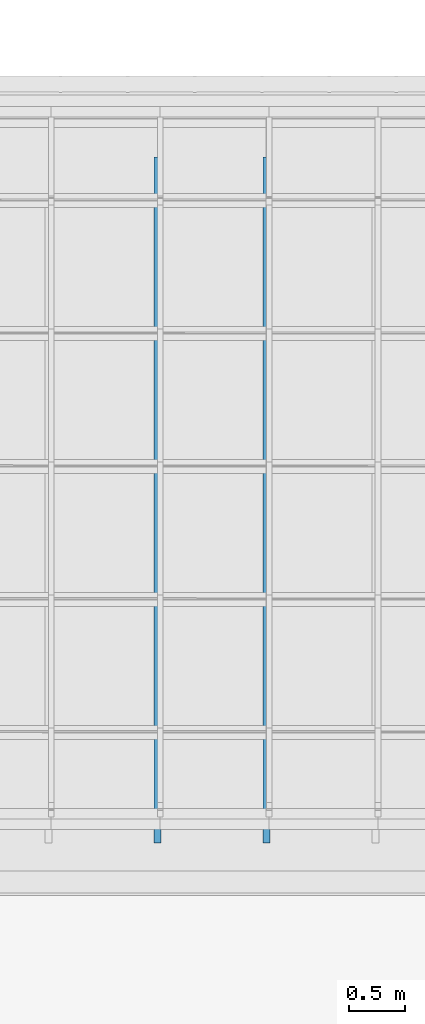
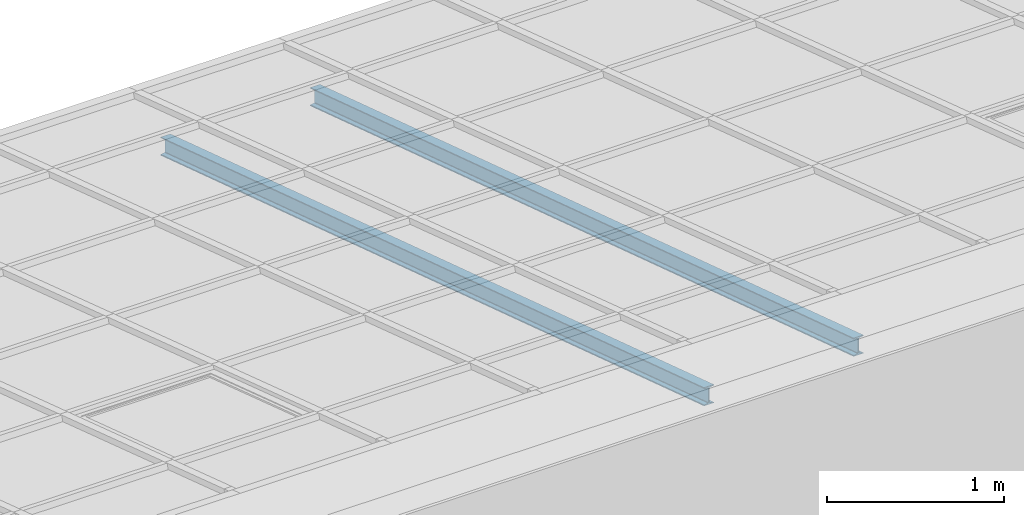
# One storey, part 9 of 47: 2 beams.
"""IFC2X3 building model written with IfcOpenShell, lengths in millimetres."""

from ifc_helpers import new_model, entity, si_unit, converted_unit, derived_unit, money_unit, point, direction, frame, frame_2d, origin_with_axes, place, context, subcontext, project, spatial, polyline, circle_curve, parameter, trimmed, segment, composite_curve, outline, extrude, clip, halfspace, material, type_object, element, save


model = new_model("IFC2X3")

# Units and contexts
model_context = context("Model", 3, precision=1e-05, world=origin_with_axes(), true_north=direction((0.0, 1.0)))
body_context = subcontext(model_context, "Body", "Model", "MODEL_VIEW")
ifc_project = project(units=[si_unit("LENGTHUNIT", "METRE", prefix="MILLI"), si_unit("AREAUNIT", "SQUARE_METRE"), si_unit("VOLUMEUNIT", "CUBIC_METRE"), converted_unit("PLANEANGLEUNIT", "DEGREE", entity("IfcPlaneAngleMeasure", 0.0174532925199), si_unit("PLANEANGLEUNIT", "RADIAN"), dimensions=[0, 0, 0, 0, 0, 0, 0]), si_unit("SOLIDANGLEUNIT", "STERADIAN"), money_unit("EUR"), converted_unit("TIMEUNIT", "Year", entity("IfcTimeMeasure", 31556926.0), si_unit("TIMEUNIT", "SECOND"), dimensions=[0, 0, 1, 0, 0, 0, 0]), si_unit("MASSUNIT", "GRAM", prefix="KILO"), si_unit("THERMODYNAMICTEMPERATUREUNIT", "DEGREE_CELSIUS"), si_unit("LUMINOUSINTENSITYUNIT", "LUMEN"), si_unit("ENERGYUNIT", "JOULE", prefix="MEGA"), derived_unit("THERMALCONDUCTANCEUNIT", [(si_unit("POWERUNIT", "WATT"), 1), (si_unit("LENGTHUNIT", "METRE"), -1), (si_unit("THERMODYNAMICTEMPERATUREUNIT", "KELVIN"), -1)]), derived_unit("SPECIFICHEATCAPACITYUNIT", [(si_unit("ENERGYUNIT", "JOULE"), 1), (si_unit("MASSUNIT", "GRAM", prefix="KILO"), -1), (si_unit("THERMODYNAMICTEMPERATUREUNIT", "KELVIN"), -1)]), derived_unit("MASSDENSITYUNIT", [(si_unit("MASSUNIT", "GRAM", prefix="KILO"), 1), (si_unit("VOLUMEUNIT", "CUBIC_METRE"), -1)])], contexts=[model_context])

# Site, building, storey
site_placement = place(None, origin_with_axes())
site = spatial("IfcSite", under=ifc_project, at=site_placement, Name="Site", CompositionType="ELEMENT")
building_placement = place(site_placement, origin_with_axes())
building = spatial("IfcBuilding", under=site, at=building_placement, Name="Building", CompositionType="ELEMENT")
storey_placement = place(building_placement, frame((0.0, 0.0, 6000.0), z_axis=(0.0, 0.0, 1.0), x_axis=(1.0, 0.0, 0.0)))
storey = spatial("IfcBuildingStorey", under=building, at=storey_placement, Name="KATUSEPLAAN", CompositionType="ELEMENT", Elevation=6000.0)

# Beams
ifc_material = material(Name="Teras (1)")
beam_type = type_object("IfcBeamType", Name="IPE 120", PredefinedType="NOTDEFINED")
beam_1_placement = place(storey_placement, frame((80929.081763, 46947.8063411, 711.763952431), z_axis=(0.0, 0.0, 1.0), x_axis=(-1.0, 0.0, 0.0)))
element("IfcBeam", 1, at=beam_1_placement, inside=storey, type_object=beam_type, material=ifc_material, Name="I Joist - Steel", ObjectType="I Joist - Steel 64 x 120", context=body_context, shape_type="Clipping", body=[
    clip(clip(extrude(outline(composite_curve([segment(polyline([(32.0018479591, -120.000212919), (32.0018479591, -117.505222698)]), True, "CONTINUOUS"), segment(trimmed(circle_curve(frame_2d((27.3321376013, -117.498683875), x_axis=(0.999999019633, -0.00140026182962)), 4.66971493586), [point((32.0018479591, -117.505222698)), parameter(0.0)], [point((31.7461003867, -115.974488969)), parameter(19.1306436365)], True, "CARTESIAN"), True, "CONTINUOUS"), segment(trimmed(circle_curve(frame_2d((27.8471066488, -117.309508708), x_axis=(0.94607823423, 0.323938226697)), 4.12121703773), [point((31.7461003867, -115.974488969)), parameter(0.0)], [point((31.017792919, -114.676795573)), parameter(20.802576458)], True, "CARTESIAN"), True, "CONTINUOUS"), segment(trimmed(circle_curve(frame_2d((28.4090653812, -116.837495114), x_axis=(0.770140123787, 0.637874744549)), 3.38734141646), [point((31.017792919, -114.676795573)), parameter(0.0)], [point((29.9278037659, -113.809704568)), parameter(23.7281511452)], True, "CARTESIAN"), True, "CONTINUOUS"), segment(trimmed(circle_curve(frame_2d((28.6333599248, -116.404648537), x_axis=(0.446378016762, 0.89484449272)), 2.89988259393), [point((29.9278037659, -113.809704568)), parameter(0.0)], [point((29.1110817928, -113.544386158)), parameter(17.0295027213)], True, "CARTESIAN"), True, "CONTINUOUS"), segment(polyline([(29.1110817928, -113.544386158), (5.24260801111, -109.566039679)]), True, "CONTINUOUS"), segment(trimmed(circle_curve(frame_2d((5.72032987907, -106.7057773), x_axis=(-0.446378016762, -0.89484449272)), 2.89988259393), [point((5.24260801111, -109.566039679)), parameter(17.0295027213)], [point((4.42588603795, -109.300721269)), parameter(0.0)], False, "CARTESIAN"), True, "CONTINUOUS"), segment(trimmed(circle_curve(frame_2d((5.94462442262, -106.272930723), x_axis=(-0.770140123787, -0.637874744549)), 3.38734141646), [point((4.42588603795, -109.300721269)), parameter(23.7281511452)], [point((3.33589688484, -108.433630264)), parameter(0.0)], False, "CARTESIAN"), True, "CONTINUOUS"), segment(trimmed(circle_curve(frame_2d((6.5065831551, -105.800917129), x_axis=(-0.94607823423, -0.323938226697)), 4.12121703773), [point((3.33589688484, -108.433630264)), parameter(20.802576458)], [point((2.60758941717, -107.135936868)), parameter(0.0)], False, "CARTESIAN"), True, "CONTINUOUS"), segment(trimmed(circle_curve(frame_2d((7.02155220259, -105.611741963), x_axis=(-0.999999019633, 0.00140026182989)), 4.66971493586), [point((2.60758941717, -107.135936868)), parameter(19.1306436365)], [point((2.35184184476, -105.605203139)), parameter(0.0)], False, "CARTESIAN"), True, "CONTINUOUS"), segment(polyline([(2.35184184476, -105.605203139), (2.35184184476, -14.3950097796)]), True, "CONTINUOUS"), segment(trimmed(circle_curve(frame_2d((7.02155220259, -14.3884709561), x_axis=(-0.945231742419, 0.326399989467)), 4.66971493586), [point((2.35184184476, -14.3950097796)), parameter(19.1306436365)], [point((2.60758941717, -12.8642760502)), parameter(0.0)], False, "CARTESIAN"), True, "CONTINUOUS"), segment(trimmed(circle_curve(frame_2d((6.5065831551, -14.1992957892), x_axis=(-0.769356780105, 0.638819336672)), 4.12121703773), [point((2.60758941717, -12.8642760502)), parameter(20.802576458)], [point((3.33589688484, -11.5665826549)), parameter(0.0)], False, "CARTESIAN"), True, "CONTINUOUS"), segment(trimmed(circle_curve(frame_2d((5.94462442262, -13.7272821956), x_axis=(-0.44835704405, 0.893854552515)), 3.38734141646), [point((3.33589688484, -11.5665826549)), parameter(23.7281511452)], [point((4.42588603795, -10.6994916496)), parameter(0.0)], False, "CARTESIAN"), True, "CONTINUOUS"), segment(trimmed(circle_curve(frame_2d((5.72032987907, -13.2944356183), x_axis=(-0.164738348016, 0.986337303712)), 2.89988259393), [point((4.42588603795, -10.6994916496)), parameter(17.0295027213)], [point((5.24260801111, -10.4341732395)), parameter(0.0)], False, "CARTESIAN"), True, "CONTINUOUS"), segment(polyline([(5.24260801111, -10.4341732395), (29.1110817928, -6.45582676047)]), True, "CONTINUOUS"), segment(trimmed(circle_curve(frame_2d((28.6333599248, -3.59556438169), x_axis=(0.164738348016, -0.986337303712)), 2.89988259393), [point((29.1110817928, -6.45582676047)), parameter(0.0)], [point((29.9278037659, -6.19050835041)), parameter(17.0295027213)], True, "CARTESIAN"), True, "CONTINUOUS"), segment(trimmed(circle_curve(frame_2d((28.4090653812, -3.16271780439), x_axis=(0.44835704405, -0.893854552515)), 3.38734141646), [point((29.9278037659, -6.19050835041)), parameter(0.0)], [point((31.017792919, -5.32341734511)), parameter(23.7281511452)], True, "CARTESIAN"), True, "CONTINUOUS"), segment(trimmed(circle_curve(frame_2d((27.8471066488, -2.69070421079), x_axis=(0.769356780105, -0.638819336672)), 4.12121703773), [point((31.017792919, -5.32341734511)), parameter(0.0)], [point((31.7461003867, -4.02572394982)), parameter(20.802576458)], True, "CARTESIAN"), True, "CONTINUOUS"), segment(trimmed(circle_curve(frame_2d((27.3321376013, -2.50152904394), x_axis=(0.945231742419, -0.326399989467)), 4.66971493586), [point((31.7461003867, -4.02572394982)), parameter(0.0)], [point((32.0018479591, -2.49499022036)), parameter(19.1306436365)], True, "CARTESIAN"), True, "CONTINUOUS"), segment(polyline([(32.0018479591, -2.49499022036), (32.0018479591, 0.0), (-32.0018479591, 0.0), (-32.0018479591, -2.49499022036)]), True, "CONTINUOUS"), segment(trimmed(circle_curve(frame_2d((-27.3321376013, -2.50152904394), x_axis=(-0.999999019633, 0.00140026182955)), 4.66971493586), [point((-32.0018479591, -2.49499022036)), parameter(0.0)], [point((-31.7461003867, -4.02572394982)), parameter(19.1306436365)], True, "CARTESIAN"), True, "CONTINUOUS"), segment(trimmed(circle_curve(frame_2d((-27.8471066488, -2.69070421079), x_axis=(-0.94607823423, -0.323938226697)), 4.12121703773), [point((-31.7461003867, -4.02572394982)), parameter(0.0)], [point((-31.017792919, -5.32341734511)), parameter(20.802576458)], True, "CARTESIAN"), True, "CONTINUOUS"), segment(trimmed(circle_curve(frame_2d((-28.4090653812, -3.16271780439), x_axis=(-0.770140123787, -0.637874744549)), 3.38734141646), [point((-31.017792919, -5.32341734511)), parameter(0.0)], [point((-29.9278037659, -6.19050835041)), parameter(23.7281511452)], True, "CARTESIAN"), True, "CONTINUOUS"), segment(trimmed(circle_curve(frame_2d((-28.6333599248, -3.59556438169), x_axis=(-0.446378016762, -0.89484449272)), 2.89988259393), [point((-29.9278037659, -6.19050835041)), parameter(0.0)], [point((-29.1110817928, -6.45582676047)), parameter(17.0295027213)], True, "CARTESIAN"), True, "CONTINUOUS"), segment(polyline([(-29.1110817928, -6.45582676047), (-5.24260801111, -10.4341732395)]), True, "CONTINUOUS"), segment(trimmed(circle_curve(frame_2d((-5.72032987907, -13.2944356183), x_axis=(0.446378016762, 0.89484449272)), 2.89988259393), [point((-5.24260801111, -10.4341732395)), parameter(17.0295027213)], [point((-4.42588603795, -10.6994916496)), parameter(0.0)], False, "CARTESIAN"), True, "CONTINUOUS"), segment(trimmed(circle_curve(frame_2d((-5.94462442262, -13.7272821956), x_axis=(0.770140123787, 0.637874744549)), 3.38734141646), [point((-4.42588603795, -10.6994916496)), parameter(23.7281511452)], [point((-3.33589688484, -11.5665826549)), parameter(0.0)], False, "CARTESIAN"), True, "CONTINUOUS"), segment(trimmed(circle_curve(frame_2d((-6.5065831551, -14.1992957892), x_axis=(0.94607823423, 0.323938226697)), 4.12121703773), [point((-3.33589688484, -11.5665826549)), parameter(20.802576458)], [point((-2.60758941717, -12.8642760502)), parameter(0.0)], False, "CARTESIAN"), True, "CONTINUOUS"), segment(trimmed(circle_curve(frame_2d((-7.02155220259, -14.3884709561), x_axis=(0.999999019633, -0.00140026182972)), 4.66971493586), [point((-2.60758941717, -12.8642760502)), parameter(19.1306436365)], [point((-2.35184184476, -14.3950097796)), parameter(0.0)], False, "CARTESIAN"), True, "CONTINUOUS"), segment(polyline([(-2.35184184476, -14.3950097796), (-2.35184184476, -105.605203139)]), True, "CONTINUOUS"), segment(trimmed(circle_curve(frame_2d((-7.02155220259, -105.611741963), x_axis=(0.945231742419, -0.326399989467)), 4.66971493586), [point((-2.35184184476, -105.605203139)), parameter(19.1306436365)], [point((-2.60758941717, -107.135936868)), parameter(0.0)], False, "CARTESIAN"), True, "CONTINUOUS"), segment(trimmed(circle_curve(frame_2d((-6.5065831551, -105.800917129), x_axis=(0.769356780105, -0.638819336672)), 4.12121703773), [point((-2.60758941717, -107.135936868)), parameter(20.802576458)], [point((-3.33589688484, -108.433630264)), parameter(0.0)], False, "CARTESIAN"), True, "CONTINUOUS"), segment(trimmed(circle_curve(frame_2d((-5.94462442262, -106.272930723), x_axis=(0.44835704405, -0.893854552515)), 3.38734141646), [point((-3.33589688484, -108.433630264)), parameter(23.7281511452)], [point((-4.42588603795, -109.300721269)), parameter(0.0)], False, "CARTESIAN"), True, "CONTINUOUS"), segment(trimmed(circle_curve(frame_2d((-5.72032987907, -106.7057773), x_axis=(0.164738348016, -0.986337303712)), 2.89988259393), [point((-4.42588603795, -109.300721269)), parameter(17.0295027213)], [point((-5.24260801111, -109.566039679)), parameter(0.0)], False, "CARTESIAN"), True, "CONTINUOUS"), segment(polyline([(-5.24260801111, -109.566039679), (-29.1110817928, -113.544386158)]), True, "CONTINUOUS"), segment(trimmed(circle_curve(frame_2d((-28.6333599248, -116.404648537), x_axis=(-0.164738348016, 0.986337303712)), 2.89988259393), [point((-29.1110817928, -113.544386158)), parameter(0.0)], [point((-29.9278037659, -113.809704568)), parameter(17.0295027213)], True, "CARTESIAN"), True, "CONTINUOUS"), segment(trimmed(circle_curve(frame_2d((-28.4090653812, -116.837495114), x_axis=(-0.44835704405, 0.893854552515)), 3.38734141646), [point((-29.9278037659, -113.809704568)), parameter(0.0)], [point((-31.017792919, -114.676795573)), parameter(23.7281511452)], True, "CARTESIAN"), True, "CONTINUOUS"), segment(trimmed(circle_curve(frame_2d((-27.8471066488, -117.309508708), x_axis=(-0.769356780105, 0.638819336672)), 4.12121703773), [point((-31.017792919, -114.676795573)), parameter(0.0)], [point((-31.7461003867, -115.974488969)), parameter(20.802576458)], True, "CARTESIAN"), True, "CONTINUOUS"), segment(trimmed(circle_curve(frame_2d((-27.3321376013, -117.498683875), x_axis=(-0.945231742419, 0.326399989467)), 4.66971493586), [point((-31.7461003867, -115.974488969)), parameter(0.0)], [point((-32.0018479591, -117.505222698)), parameter(19.1306436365)], True, "CARTESIAN"), True, "CONTINUOUS"), segment(polyline([(-32.0018479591, -117.505222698), (-32.0018479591, -120.000212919), (32.0018479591, -120.000212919)]), True, "CONTINUOUS")], self_intersect=False)), frame((0.0, 6177.44201598, 2007.17258333), z_axis=(0.0, 0.951056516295, 0.309016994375), x_axis=(-1.0, 0.0, 0.0)), (0.0, 0.0, -1.0), 6550.487721), halfspace(frame((0.0, 6125.0, 0.0), z_axis=(0.0, -1.0, 0.0), x_axis=(0.0, 0.0, -1.0)), True)), halfspace(frame((0.0, 0.0, 0.0), z_axis=(0.0, 1.0, 0.0), x_axis=(0.0, 0.0, 1.0)), True)),
])
beam_2_placement = place(storey_placement, frame((79956.081763, 46947.8063411, 711.763952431), z_axis=(0.0, 0.0, 1.0), x_axis=(-1.0, 0.0, 0.0)))
element("IfcBeam", 2, at=beam_2_placement, inside=storey, type_object=beam_type, material=ifc_material, Name="I Joist - Steel", ObjectType="I Joist - Steel 64 x 120", context=body_context, shape_type="Clipping", body=[
    clip(clip(extrude(outline(composite_curve([segment(polyline([(32.0018479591, -120.000212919), (32.0018479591, -117.505222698)]), True, "CONTINUOUS"), segment(trimmed(circle_curve(frame_2d((27.3321376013, -117.498683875), x_axis=(0.999999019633, -0.00140026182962)), 4.66971493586), [point((32.0018479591, -117.505222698)), parameter(0.0)], [point((31.7461003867, -115.974488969)), parameter(19.1306436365)], True, "CARTESIAN"), True, "CONTINUOUS"), segment(trimmed(circle_curve(frame_2d((27.8471066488, -117.309508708), x_axis=(0.94607823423, 0.323938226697)), 4.12121703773), [point((31.7461003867, -115.974488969)), parameter(0.0)], [point((31.017792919, -114.676795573)), parameter(20.802576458)], True, "CARTESIAN"), True, "CONTINUOUS"), segment(trimmed(circle_curve(frame_2d((28.4090653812, -116.837495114), x_axis=(0.770140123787, 0.637874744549)), 3.38734141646), [point((31.017792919, -114.676795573)), parameter(0.0)], [point((29.9278037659, -113.809704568)), parameter(23.7281511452)], True, "CARTESIAN"), True, "CONTINUOUS"), segment(trimmed(circle_curve(frame_2d((28.6333599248, -116.404648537), x_axis=(0.446378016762, 0.89484449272)), 2.89988259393), [point((29.9278037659, -113.809704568)), parameter(0.0)], [point((29.1110817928, -113.544386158)), parameter(17.0295027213)], True, "CARTESIAN"), True, "CONTINUOUS"), segment(polyline([(29.1110817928, -113.544386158), (5.24260801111, -109.566039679)]), True, "CONTINUOUS"), segment(trimmed(circle_curve(frame_2d((5.72032987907, -106.7057773), x_axis=(-0.446378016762, -0.89484449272)), 2.89988259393), [point((5.24260801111, -109.566039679)), parameter(17.0295027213)], [point((4.42588603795, -109.300721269)), parameter(0.0)], False, "CARTESIAN"), True, "CONTINUOUS"), segment(trimmed(circle_curve(frame_2d((5.94462442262, -106.272930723), x_axis=(-0.770140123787, -0.637874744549)), 3.38734141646), [point((4.42588603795, -109.300721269)), parameter(23.7281511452)], [point((3.33589688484, -108.433630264)), parameter(0.0)], False, "CARTESIAN"), True, "CONTINUOUS"), segment(trimmed(circle_curve(frame_2d((6.5065831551, -105.800917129), x_axis=(-0.94607823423, -0.323938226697)), 4.12121703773), [point((3.33589688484, -108.433630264)), parameter(20.802576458)], [point((2.60758941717, -107.135936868)), parameter(0.0)], False, "CARTESIAN"), True, "CONTINUOUS"), segment(trimmed(circle_curve(frame_2d((7.02155220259, -105.611741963), x_axis=(-0.999999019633, 0.00140026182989)), 4.66971493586), [point((2.60758941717, -107.135936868)), parameter(19.1306436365)], [point((2.35184184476, -105.605203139)), parameter(0.0)], False, "CARTESIAN"), True, "CONTINUOUS"), segment(polyline([(2.35184184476, -105.605203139), (2.35184184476, -14.3950097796)]), True, "CONTINUOUS"), segment(trimmed(circle_curve(frame_2d((7.02155220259, -14.3884709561), x_axis=(-0.945231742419, 0.326399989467)), 4.66971493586), [point((2.35184184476, -14.3950097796)), parameter(19.1306436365)], [point((2.60758941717, -12.8642760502)), parameter(0.0)], False, "CARTESIAN"), True, "CONTINUOUS"), segment(trimmed(circle_curve(frame_2d((6.5065831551, -14.1992957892), x_axis=(-0.769356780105, 0.638819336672)), 4.12121703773), [point((2.60758941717, -12.8642760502)), parameter(20.802576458)], [point((3.33589688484, -11.5665826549)), parameter(0.0)], False, "CARTESIAN"), True, "CONTINUOUS"), segment(trimmed(circle_curve(frame_2d((5.94462442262, -13.7272821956), x_axis=(-0.44835704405, 0.893854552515)), 3.38734141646), [point((3.33589688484, -11.5665826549)), parameter(23.7281511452)], [point((4.42588603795, -10.6994916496)), parameter(0.0)], False, "CARTESIAN"), True, "CONTINUOUS"), segment(trimmed(circle_curve(frame_2d((5.72032987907, -13.2944356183), x_axis=(-0.164738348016, 0.986337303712)), 2.89988259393), [point((4.42588603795, -10.6994916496)), parameter(17.0295027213)], [point((5.24260801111, -10.4341732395)), parameter(0.0)], False, "CARTESIAN"), True, "CONTINUOUS"), segment(polyline([(5.24260801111, -10.4341732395), (29.1110817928, -6.45582676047)]), True, "CONTINUOUS"), segment(trimmed(circle_curve(frame_2d((28.6333599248, -3.59556438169), x_axis=(0.164738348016, -0.986337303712)), 2.89988259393), [point((29.1110817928, -6.45582676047)), parameter(0.0)], [point((29.9278037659, -6.19050835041)), parameter(17.0295027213)], True, "CARTESIAN"), True, "CONTINUOUS"), segment(trimmed(circle_curve(frame_2d((28.4090653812, -3.16271780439), x_axis=(0.44835704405, -0.893854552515)), 3.38734141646), [point((29.9278037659, -6.19050835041)), parameter(0.0)], [point((31.017792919, -5.32341734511)), parameter(23.7281511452)], True, "CARTESIAN"), True, "CONTINUOUS"), segment(trimmed(circle_curve(frame_2d((27.8471066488, -2.69070421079), x_axis=(0.769356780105, -0.638819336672)), 4.12121703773), [point((31.017792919, -5.32341734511)), parameter(0.0)], [point((31.7461003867, -4.02572394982)), parameter(20.802576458)], True, "CARTESIAN"), True, "CONTINUOUS"), segment(trimmed(circle_curve(frame_2d((27.3321376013, -2.50152904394), x_axis=(0.945231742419, -0.326399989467)), 4.66971493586), [point((31.7461003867, -4.02572394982)), parameter(0.0)], [point((32.0018479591, -2.49499022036)), parameter(19.1306436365)], True, "CARTESIAN"), True, "CONTINUOUS"), segment(polyline([(32.0018479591, -2.49499022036), (32.0018479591, 0.0), (-32.0018479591, 0.0), (-32.0018479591, -2.49499022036)]), True, "CONTINUOUS"), segment(trimmed(circle_curve(frame_2d((-27.3321376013, -2.50152904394), x_axis=(-0.999999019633, 0.00140026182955)), 4.66971493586), [point((-32.0018479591, -2.49499022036)), parameter(0.0)], [point((-31.7461003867, -4.02572394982)), parameter(19.1306436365)], True, "CARTESIAN"), True, "CONTINUOUS"), segment(trimmed(circle_curve(frame_2d((-27.8471066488, -2.69070421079), x_axis=(-0.94607823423, -0.323938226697)), 4.12121703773), [point((-31.7461003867, -4.02572394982)), parameter(0.0)], [point((-31.017792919, -5.32341734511)), parameter(20.802576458)], True, "CARTESIAN"), True, "CONTINUOUS"), segment(trimmed(circle_curve(frame_2d((-28.4090653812, -3.16271780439), x_axis=(-0.770140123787, -0.637874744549)), 3.38734141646), [point((-31.017792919, -5.32341734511)), parameter(0.0)], [point((-29.9278037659, -6.19050835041)), parameter(23.7281511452)], True, "CARTESIAN"), True, "CONTINUOUS"), segment(trimmed(circle_curve(frame_2d((-28.6333599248, -3.59556438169), x_axis=(-0.446378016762, -0.89484449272)), 2.89988259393), [point((-29.9278037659, -6.19050835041)), parameter(0.0)], [point((-29.1110817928, -6.45582676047)), parameter(17.0295027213)], True, "CARTESIAN"), True, "CONTINUOUS"), segment(polyline([(-29.1110817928, -6.45582676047), (-5.24260801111, -10.4341732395)]), True, "CONTINUOUS"), segment(trimmed(circle_curve(frame_2d((-5.72032987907, -13.2944356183), x_axis=(0.446378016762, 0.89484449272)), 2.89988259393), [point((-5.24260801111, -10.4341732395)), parameter(17.0295027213)], [point((-4.42588603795, -10.6994916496)), parameter(0.0)], False, "CARTESIAN"), True, "CONTINUOUS"), segment(trimmed(circle_curve(frame_2d((-5.94462442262, -13.7272821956), x_axis=(0.770140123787, 0.637874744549)), 3.38734141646), [point((-4.42588603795, -10.6994916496)), parameter(23.7281511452)], [point((-3.33589688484, -11.5665826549)), parameter(0.0)], False, "CARTESIAN"), True, "CONTINUOUS"), segment(trimmed(circle_curve(frame_2d((-6.5065831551, -14.1992957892), x_axis=(0.94607823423, 0.323938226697)), 4.12121703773), [point((-3.33589688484, -11.5665826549)), parameter(20.802576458)], [point((-2.60758941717, -12.8642760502)), parameter(0.0)], False, "CARTESIAN"), True, "CONTINUOUS"), segment(trimmed(circle_curve(frame_2d((-7.02155220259, -14.3884709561), x_axis=(0.999999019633, -0.00140026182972)), 4.66971493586), [point((-2.60758941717, -12.8642760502)), parameter(19.1306436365)], [point((-2.35184184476, -14.3950097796)), parameter(0.0)], False, "CARTESIAN"), True, "CONTINUOUS"), segment(polyline([(-2.35184184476, -14.3950097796), (-2.35184184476, -105.605203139)]), True, "CONTINUOUS"), segment(trimmed(circle_curve(frame_2d((-7.02155220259, -105.611741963), x_axis=(0.945231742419, -0.326399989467)), 4.66971493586), [point((-2.35184184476, -105.605203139)), parameter(19.1306436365)], [point((-2.60758941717, -107.135936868)), parameter(0.0)], False, "CARTESIAN"), True, "CONTINUOUS"), segment(trimmed(circle_curve(frame_2d((-6.5065831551, -105.800917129), x_axis=(0.769356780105, -0.638819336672)), 4.12121703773), [point((-2.60758941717, -107.135936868)), parameter(20.802576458)], [point((-3.33589688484, -108.433630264)), parameter(0.0)], False, "CARTESIAN"), True, "CONTINUOUS"), segment(trimmed(circle_curve(frame_2d((-5.94462442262, -106.272930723), x_axis=(0.44835704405, -0.893854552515)), 3.38734141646), [point((-3.33589688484, -108.433630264)), parameter(23.7281511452)], [point((-4.42588603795, -109.300721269)), parameter(0.0)], False, "CARTESIAN"), True, "CONTINUOUS"), segment(trimmed(circle_curve(frame_2d((-5.72032987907, -106.7057773), x_axis=(0.164738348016, -0.986337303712)), 2.89988259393), [point((-4.42588603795, -109.300721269)), parameter(17.0295027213)], [point((-5.24260801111, -109.566039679)), parameter(0.0)], False, "CARTESIAN"), True, "CONTINUOUS"), segment(polyline([(-5.24260801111, -109.566039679), (-29.1110817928, -113.544386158)]), True, "CONTINUOUS"), segment(trimmed(circle_curve(frame_2d((-28.6333599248, -116.404648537), x_axis=(-0.164738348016, 0.986337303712)), 2.89988259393), [point((-29.1110817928, -113.544386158)), parameter(0.0)], [point((-29.9278037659, -113.809704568)), parameter(17.0295027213)], True, "CARTESIAN"), True, "CONTINUOUS"), segment(trimmed(circle_curve(frame_2d((-28.4090653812, -116.837495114), x_axis=(-0.44835704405, 0.893854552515)), 3.38734141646), [point((-29.9278037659, -113.809704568)), parameter(0.0)], [point((-31.017792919, -114.676795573)), parameter(23.7281511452)], True, "CARTESIAN"), True, "CONTINUOUS"), segment(trimmed(circle_curve(frame_2d((-27.8471066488, -117.309508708), x_axis=(-0.769356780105, 0.638819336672)), 4.12121703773), [point((-31.017792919, -114.676795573)), parameter(0.0)], [point((-31.7461003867, -115.974488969)), parameter(20.802576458)], True, "CARTESIAN"), True, "CONTINUOUS"), segment(trimmed(circle_curve(frame_2d((-27.3321376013, -117.498683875), x_axis=(-0.945231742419, 0.326399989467)), 4.66971493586), [point((-31.7461003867, -115.974488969)), parameter(0.0)], [point((-32.0018479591, -117.505222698)), parameter(19.1306436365)], True, "CARTESIAN"), True, "CONTINUOUS"), segment(polyline([(-32.0018479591, -117.505222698), (-32.0018479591, -120.000212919), (32.0018479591, -120.000212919)]), True, "CONTINUOUS")], self_intersect=False)), frame((0.0, 6177.44201598, 2007.17258333), z_axis=(0.0, 0.951056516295, 0.309016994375), x_axis=(-1.0, 0.0, 0.0)), (0.0, 0.0, -1.0), 6550.487721), halfspace(frame((0.0, 6125.0, 0.0), z_axis=(0.0, -1.0, 0.0), x_axis=(0.0, 0.0, -1.0)), True)), halfspace(frame((0.0, 0.0, 0.0), z_axis=(0.0, 1.0, 0.0), x_axis=(0.0, 0.0, 1.0)), True)),
])

save(model, "model.ifc")
